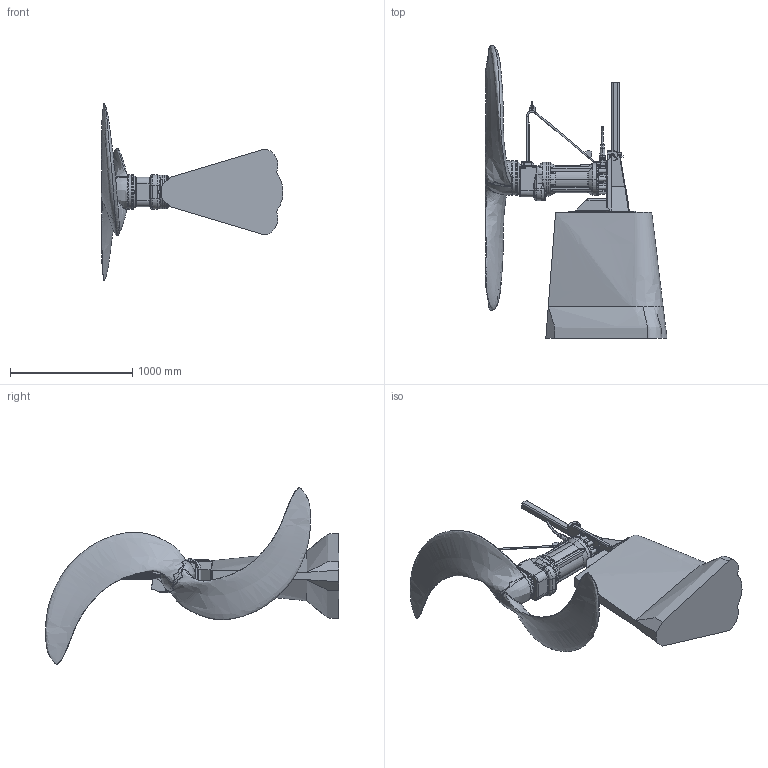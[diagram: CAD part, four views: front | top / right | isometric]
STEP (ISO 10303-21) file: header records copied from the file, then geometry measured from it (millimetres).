
FILE_DESCRIPTION (( 'STEP AP214' ), '1' );
FILE_NAME ('XSB2500 CP 1030_MSD.STEP', '2013-04-26T08:06:06', ( 'HP' ), ( '' ), 'SwSTEP 2.0', 'SolidWorks 2011', '' );
FILE_SCHEMA (( 'AUTOMOTIVE_DESIGN' ));
Products named in the file (1): XSB2500 CP 1030_MSD
Bounding box: 1490.62 x 2400.14 x 1446.33 mm (x, y, z)
Volume: 359818122.4 mm3; surface area: 6948160.8 mm2
Topology: 1 solids, 1 shells, 1735 faces, 4329 edges, 2544 vertices
Faces by surface type: bspline 510, plane 448, cylinder 376, torus 259, cone 76, sphere 66
Entity records: 422614 total; most frequent: CARTESIAN_POINT 385057, ORIENTED_EDGE 8496, DIRECTION 7176, EDGE_CURVE 4248, AXIS2_PLACEMENT_3D 2870, VERTEX_POINT 2539, EDGE_LOOP 1795, ADVANCED_FACE 1735
